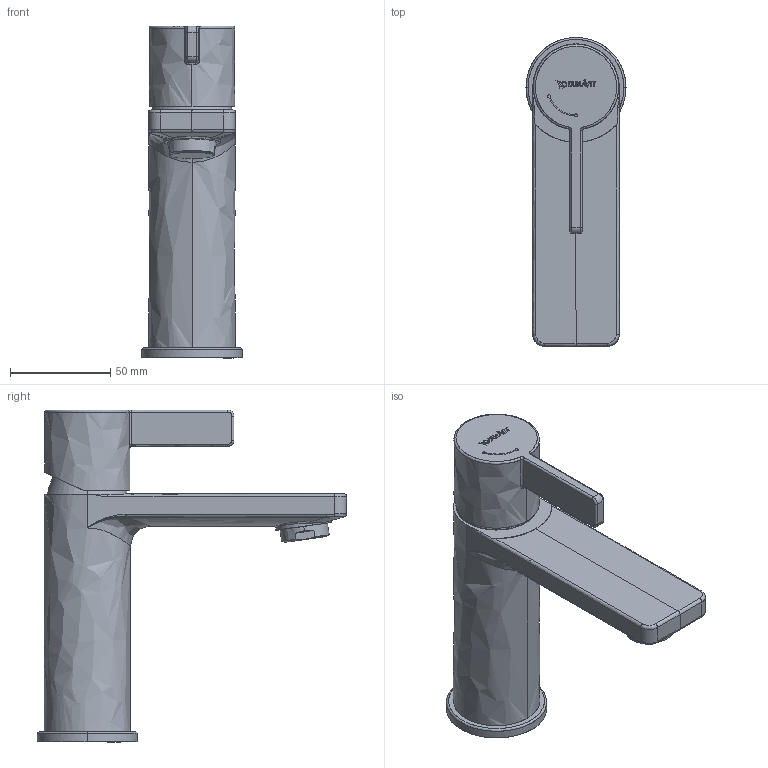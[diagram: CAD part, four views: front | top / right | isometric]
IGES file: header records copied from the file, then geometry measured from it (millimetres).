
Global section: file name: d:\users\matthias.isele\Desktop\planungsdaten_erstellen\Armaturen\D-Neo\DE1020002010\DE1020002010.igs; native system: Rhinoceros ( Sep 13 2016 ); preprocessor: Trout Lake IGES 012 Sep 13 2016; date: 210622.072738; units: millimetre
Bounding box: 49.8 x 154.09 x 165.32 mm (x, y, z)
Surface area: 43428.2 mm2 (no closed solid volume)
Topology: 0 solids, 0 shells, 240 faces, 1779 edges, 1779 vertices
Faces by surface type: bspline 240
